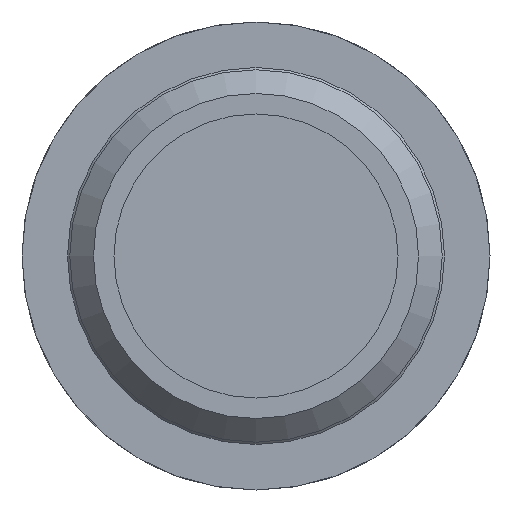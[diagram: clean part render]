
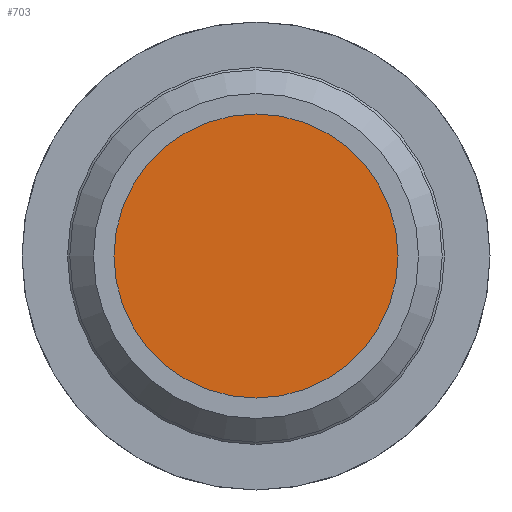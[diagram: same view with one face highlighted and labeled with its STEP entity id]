
A CAD part, left-side view. The second image highlights one B-rep face of the part: STEP entity #703.
In plain terms, the highlighted planar face has unit normal (-1, 0, 0).
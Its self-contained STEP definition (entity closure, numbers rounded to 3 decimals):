
#88=PLANE($,#804);
#149=FACE_OUTER_BOUND($,#204,.T.);
#204=EDGE_LOOP($,(#547));
#268=CIRCLE($,#805,29.);
#333=VERTEX_POINT($,#1404);
#422=EDGE_CURVE($,#333,#333,#268,.T.);
#547=ORIENTED_EDGE($,*,*,#422,.F.);
#703=ADVANCED_FACE($,(#149),#88,.T.);
#804=AXIS2_PLACEMENT_3D($,#1403,#1015,#1016);
#805=AXIS2_PLACEMENT_3D($,#1405,#1017,#1018);
#1015=DIRECTION('center_axis',(-1.,0.,0.));
#1016=DIRECTION('ref_axis',(0.,0.,1.));
#1017=DIRECTION('center_axis',(1.,0.,0.));
#1018=DIRECTION('ref_axis',(0.,1.,0.));
#1403=CARTESIAN_POINT('Origin',(-4.,14.5,0.));
#1404=CARTESIAN_POINT('',(-4.,29.,0.));
#1405=CARTESIAN_POINT('Origin',(-4.,0.,0.));
